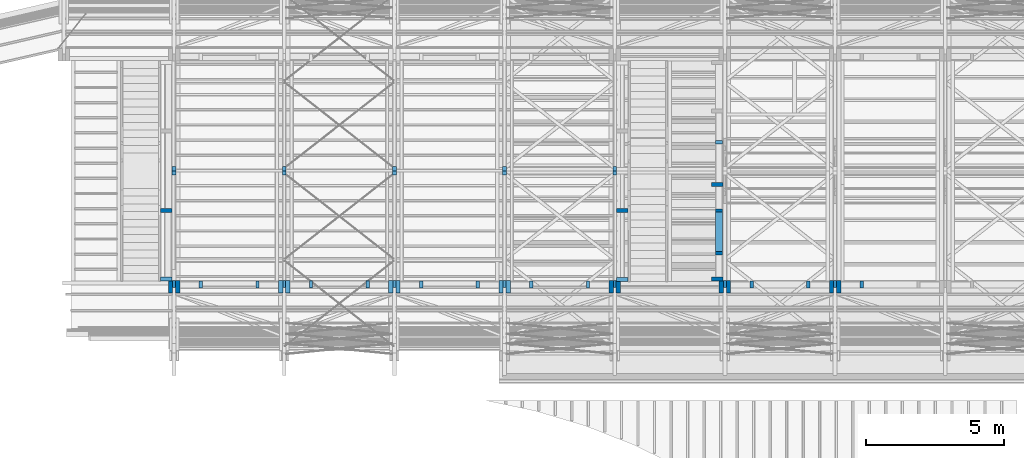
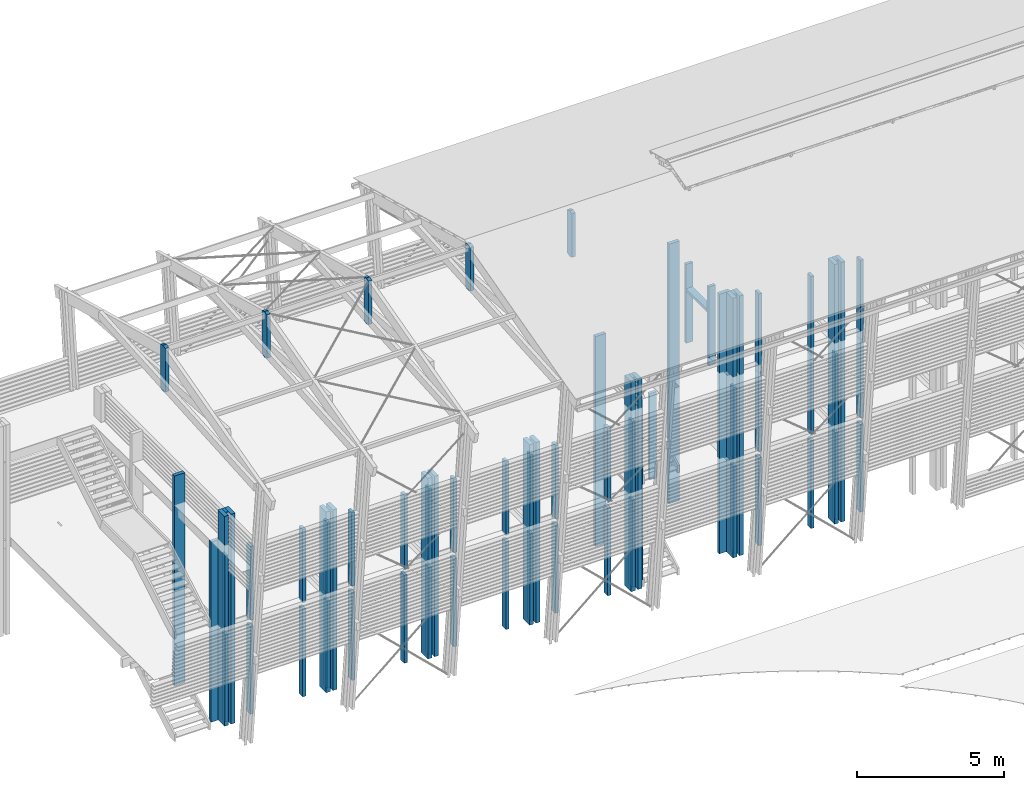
# One storey, part 1 of 48: 75 columns.
"""IFC2X3 building model written with IfcOpenShell, lengths in metres."""

from ifc_helpers import new_model, si_unit, direction, frame, origin_with_axes, place, context, subcontext, project, spatial, faceted_brep, material, element, save


model = new_model("IFC2X3")

# Units and contexts
model_context = context("Model", 3, precision=1e-06, world=origin_with_axes(), true_north=direction((0.0, 1.0, 0.0)))
body_context = subcontext(model_context, "Body", "Model", "MODEL_VIEW")
ifc_project = project(units=[si_unit("LENGTHUNIT", "METRE"), si_unit("AREAUNIT", "SQUARE_METRE"), si_unit("VOLUMEUNIT", "CUBIC_METRE"), si_unit("PLANEANGLEUNIT", "RADIAN")], contexts=[model_context])

# Site, building, storey
site_placement = place(None, origin_with_axes())
site = spatial("IfcSite", under=ifc_project, at=site_placement, CompositionType="ELEMENT")
building_placement = place(site_placement, origin_with_axes())
building = spatial("IfcBuilding", under=site, at=building_placement, Name="Building 1", CompositionType="ELEMENT")
storey_placement = place(building_placement, origin_with_axes())
storey = spatial("IfcBuildingStorey", under=building, at=storey_placement, Name="Storey 1", CompositionType="ELEMENT", Elevation=0.0)

# Columns
ifc_material = material(Name="GL28h")
column_1_placement = place(storey_placement, frame((36.5197437, -193.3396515, 4.215), z_axis=(0.0, 1.0, 0.0), x_axis=(0.0, 0.0, 1.0)))
element("IfcColumn", 1, at=column_1_placement, inside=storey, material=ifc_material, Name="poteau encadrement menuiserie", context=body_context, shape_type="Brep", body=[
    faceted_brep([(3.055, -0.06, 0.13), (3.055, 0.06, 0.13), (0.0, 0.06, 0.13), (0.0, -0.06, 0.13), (3.055, 0.06, -0.13), (0.0, 0.06, -0.13), (3.055, -0.06, -0.13), (0.0, -0.06, -0.13)], [[[0, 1, 2, 3]], [[1, 4, 5, 2]], [[4, 6, 7, 5]], [[7, 3, 2, 5]], [[6, 0, 3, 7]], [[0, 6, 4, 1]]]),
])
column_2_placement = place(storey_placement, frame((32.5197437, -193.3196515, 0.3), z_axis=(0.0, -1.0, 0.0), x_axis=(0.0, 0.0, 1.0)))
element("IfcColumn", 2, at=column_2_placement, inside=storey, material=ifc_material, Name="poteau encadrement menuiserie", context=body_context, shape_type="Brep", body=[
    faceted_brep([(0.0, 0.06, -0.13), (3.655, 0.06, -0.13), (3.655, -0.06, -0.13), (0.0, -0.06, -0.13), (0.0, 0.06, 0.13), (3.655, 0.06, 0.13), (0.0, -0.06, 0.13), (3.655, -0.06, 0.13)], [[[0, 1, 2, 3]], [[4, 5, 1, 0]], [[6, 7, 5, 4]], [[3, 2, 7, 6]], [[7, 2, 1, 5]], [[3, 6, 4, 0]]]),
])
column_3_placement = place(storey_placement, frame((45.4897437, -193.3196515, 0.3), z_axis=(0.0, -1.0, 0.0), x_axis=(0.0, 0.0, 1.0)))
element("IfcColumn", 3, at=column_3_placement, inside=storey, material=ifc_material, Name="Fourrure", context=body_context, shape_type="Brep", body=[
    faceted_brep([(3.629, -0.05, 0.13), (3.629, -0.05, -0.13), (3.629, 0.05, -0.13), (3.629, 0.05, 0.13), (0.0, 0.05, 0.13), (0.0, -0.05, 0.13), (0.0, -0.05, -0.13), (0.0, 0.05, -0.13)], [[[0, 1, 2, 3]], [[0, 3, 4, 5]], [[1, 0, 5, 6]], [[2, 1, 6, 7]], [[3, 2, 7, 4]], [[6, 5, 4, 7]]]),
])
column_4_placement = place(storey_placement, frame((45.2097437, -189.7096515, 0.3), z_axis=(-1.0, 0.0, 0.0), x_axis=(0.0, 0.0, 1.0)))
element("IfcColumn", 4, at=column_4_placement, inside=storey, material=ifc_material, Name="poteau", context=body_context, shape_type="Brep", body=[
    faceted_brep([(10.8, 0.07, 0.21), (10.8, 0.07, -0.21), (0.0, 0.07, -0.21), (0.0, 0.07, 0.21), (10.8, -0.07, -0.21), (0.0, -0.07, -0.21), (10.8, -0.07, 0.21), (0.0, -0.07, 0.21)], [[[0, 1, 2, 3]], [[1, 4, 5, 2]], [[4, 6, 7, 5]], [[6, 0, 3, 7]], [[0, 6, 4, 1]], [[5, 7, 3, 2]]]),
])
column_5_placement = place(storey_placement, frame((41.4897437, -193.3196515, 0.3), z_axis=(0.0, -1.0, 0.0), x_axis=(0.0, 0.0, 1.0)))
element("IfcColumn", 5, at=column_5_placement, inside=storey, material=ifc_material, Name="Fourrure", context=body_context, shape_type="Brep", body=[
    faceted_brep([(3.629, -0.05, 0.13), (3.629, -0.05, -0.13), (3.629, 0.05, -0.13), (3.629, 0.05, 0.13), (0.0, 0.05, 0.13), (0.0, -0.05, 0.13), (0.0, -0.05, -0.13), (0.0, 0.05, -0.13)], [[[0, 1, 2, 3]], [[0, 3, 4, 5]], [[1, 0, 5, 6]], [[2, 1, 6, 7]], [[3, 2, 7, 4]], [[6, 5, 4, 7]]]),
])
column_6_placement = place(storey_placement, frame((41.7697437, -190.6480698, 0.3), z_axis=(-1.0, 0.0, 0.0), x_axis=(0.0, 0.0, 1.0)))
element("IfcColumn", 6, at=column_6_placement, inside=storey, material=ifc_material, Name="poteau", context=body_context, shape_type="Brep", body=[
    faceted_brep([(8.73, 0.07, 0.21), (8.73, 0.07, -0.21), (0.0, 0.07, -0.21), (0.0, 0.07, 0.21), (8.73, -0.07, -0.21), (0.0, -0.07, -0.21), (8.73, -0.07, 0.21), (0.0, -0.07, 0.21)], [[[0, 1, 2, 3]], [[1, 4, 5, 2]], [[4, 6, 7, 5]], [[6, 0, 3, 7]], [[0, 6, 4, 1]], [[5, 7, 3, 2]]]),
])
column_7_placement = place(storey_placement, frame((40.5197437, -193.3396515, 4.215), z_axis=(0.0, 1.0, 0.0), x_axis=(0.0, 0.0, 1.0)))
element("IfcColumn", 7, at=column_7_placement, inside=storey, material=ifc_material, Name="poteau encadrement menuiserie", context=body_context, shape_type="Brep", body=[
    faceted_brep([(3.055, -0.06, 0.13), (3.055, 0.06, 0.13), (0.0, 0.06, 0.13), (0.0, -0.06, 0.13), (3.055, 0.06, -0.13), (0.0, 0.06, -0.13), (3.055, -0.06, -0.13), (0.0, -0.06, -0.13)], [[[0, 1, 2, 3]], [[1, 4, 5, 2]], [[4, 6, 7, 5]], [[7, 3, 2, 5]], [[6, 0, 3, 7]], [[0, 6, 4, 1]]]),
])
column_8_placement = place(storey_placement, frame((45.2697437, -188.1664884, 0.3), z_axis=(-1.0, 0.0, 0.0), x_axis=(0.0, 0.0, 1.0)))
element("IfcColumn", 8, at=column_8_placement, inside=storey, material=ifc_material, Name="poteau encadrement menuiserie", context=body_context, shape_type="Brep", body=[
    faceted_brep([(3.595, 0.06, -0.13), (3.595, 0.06, 0.13), (3.595, -0.06, 0.13), (3.595, -0.06, -0.13), (0.0, 0.06, 0.13), (0.0, 0.06, -0.13), (0.0, -0.06, -0.13), (0.0, -0.06, 0.13)], [[[0, 1, 2, 3]], [[4, 5, 6, 7]], [[3, 6, 5, 0]], [[2, 7, 6, 3]], [[1, 4, 7, 2]], [[0, 5, 4, 1]]]),
])
column_9_placement = place(storey_placement, frame((45.4897437, -193.3196515, 7.529), z_axis=(0.0, -1.0, 0.0), x_axis=(0.0, 0.0, 1.0)))
element("IfcColumn", 9, at=column_9_placement, inside=storey, material=ifc_material, Name="Fourrure", context=body_context, shape_type="Brep", body=[
    faceted_brep([(0.0, 0.05, 0.13), (0.0, -0.05, 0.13), (3.571, -0.05, 0.13), (3.571, 0.05, 0.13), (0.0, 0.05, -0.13), (3.571, 0.05, -0.13), (0.0, -0.05, -0.13), (3.571, -0.05, -0.13)], [[[0, 1, 2, 3]], [[4, 0, 3, 5]], [[6, 4, 5, 7]], [[1, 6, 7, 2]], [[4, 6, 1, 0]], [[2, 7, 5, 3]]]),
])
column_10_placement = place(storey_placement, frame((25.4897437, -193.3196515, 0.3), z_axis=(0.0, -1.0, 0.0), x_axis=(0.0, 0.0, 1.0)))
element("IfcColumn", 10, at=column_10_placement, inside=storey, material=ifc_material, Name="Fourrure", context=body_context, shape_type="Brep", body=[
    faceted_brep([(3.629, -0.05, 0.13), (3.629, -0.05, -0.13), (3.629, 0.05, -0.13), (3.629, 0.05, 0.13), (0.0, 0.05, 0.13), (0.0, -0.05, 0.13), (0.0, -0.05, -0.13), (0.0, 0.05, -0.13)], [[[0, 1, 2, 3]], [[0, 3, 4, 5]], [[1, 0, 5, 6]], [[2, 1, 6, 7]], [[3, 2, 7, 4]], [[6, 5, 4, 7]]]),
])
column_11_placement = place(storey_placement, frame((45.3597437, -193.4196515, 0.3), z_axis=(0.0, 1.0, 0.0), x_axis=(0.0, 0.0, 1.0)))
element("IfcColumn", 11, at=column_11_placement, inside=storey, material=ifc_material, Name="Poteau", context=body_context, shape_type="Brep", body=[
    faceted_brep([(10.8, 0.08, 0.23), (0.0, 0.08, 0.23), (0.0, -0.08, 0.23), (10.8, -0.08, 0.23), (10.8, 0.08, -0.23), (0.0, 0.08, -0.23), (10.8, -0.08, -0.23), (0.0, -0.08, -0.23)], [[[0, 1, 2, 3]], [[0, 4, 5, 1]], [[6, 7, 5, 4]], [[2, 7, 6, 3]], [[1, 5, 7, 2]], [[3, 6, 4, 0]]]),
])
column_12_placement = place(storey_placement, frame((30.4597437, -193.3396515, 0.3), z_axis=(0.0, -1.0, 0.0), x_axis=(0.0, 0.0, 1.0)))
element("IfcColumn", 12, at=column_12_placement, inside=storey, material=ifc_material, Name="poteau encadrement menuiserie", context=body_context, shape_type="Brep", body=[
    faceted_brep([(0.0, 0.06, -0.13), (3.655, 0.06, -0.13), (3.655, -0.06, -0.13), (0.0, -0.06, -0.13), (0.0, 0.06, 0.13), (3.655, 0.06, 0.13), (0.0, -0.06, 0.13), (3.655, -0.06, 0.13)], [[[0, 1, 2, 3]], [[4, 5, 1, 0]], [[6, 7, 5, 4]], [[3, 2, 7, 6]], [[7, 2, 1, 5]], [[3, 6, 4, 0]]]),
])
column_13_placement = place(storey_placement, frame((41.3597437, -193.4196515, 0.3), z_axis=(0.0, 1.0, 0.0), x_axis=(0.0, 0.0, 1.0)))
element("IfcColumn", 13, at=column_13_placement, inside=storey, material=ifc_material, Name="Poteau", context=body_context, shape_type="Brep", body=[
    faceted_brep([(8.73, 0.08, 0.23), (8.73, 0.08, -0.23), (0.0, 0.08, -0.23), (0.0, 0.08, 0.23), (8.73, -0.08, -0.23), (0.0, -0.08, -0.23), (8.73, -0.08, 0.23), (0.0, -0.08, 0.23)], [[[0, 1, 2, 3]], [[1, 4, 5, 2]], [[4, 6, 7, 5]], [[6, 0, 3, 7]], [[0, 6, 4, 1]], [[5, 7, 3, 2]]]),
])
column_14_placement = place(storey_placement, frame((25.2097437, -190.6480698, 0.3), z_axis=(-1.0, 0.0, 0.0), x_axis=(0.0, 0.0, 1.0)))
element("IfcColumn", 14, at=column_14_placement, inside=storey, material=ifc_material, Name="poteau", context=body_context, shape_type="Brep", body=[
    faceted_brep([(8.73, 0.07, 0.21), (8.73, 0.07, -0.21), (0.0, 0.07, -0.21), (0.0, 0.07, 0.21), (8.73, -0.07, -0.21), (0.0, -0.07, -0.21), (8.73, -0.07, 0.21), (0.0, -0.07, 0.21)], [[[0, 1, 2, 3]], [[1, 4, 5, 2]], [[4, 6, 7, 5]], [[6, 0, 3, 7]], [[0, 6, 4, 1]], [[5, 7, 3, 2]]]),
])
for number, where, z_axis, x_axis, name in (
    (15, (41.7697437, -193.1596511, 0.3), (-1.0, 0.0, 0.0), (0.0, 0.0, 1.0), "poteau"),
    (16, (25.2097437, -193.1396515, 0.3), (-1.0, 0.0, 0.0), (0.0, 0.0, 1.0), "poteau"),
):
    element("IfcColumn", number, at=place(storey_placement, frame(where, z_axis=z_axis, x_axis=x_axis)), inside=storey, material=ifc_material, Name=name, context=body_context, shape_type="Brep", body=[
        faceted_brep([(7.49, -0.07, 0.21), (7.49, 0.07, 0.21), (0.0, 0.07, 0.21), (0.0, -0.07, 0.21), (7.49, 0.07, -0.21), (0.0, 0.07, -0.21), (7.49, -0.07, -0.21), (0.0, -0.07, -0.21)], [[[0, 1, 2, 3]], [[1, 4, 5, 2]], [[4, 6, 7, 5]], [[6, 0, 3, 7]], [[0, 6, 4, 1]], [[3, 2, 5, 7]]]),
    ])
column_15_placement = place(storey_placement, frame((50.4597437, -193.3396515, 4.215), z_axis=(0.0, 1.0, 0.0), x_axis=(0.0, 0.0, 1.0)))
element("IfcColumn", 17, at=column_15_placement, inside=storey, material=ifc_material, Name="poteau encadrement menuiserie", context=body_context, shape_type="Brep", body=[
    faceted_brep([(3.3, 0.06, 0.13), (3.3, 0.06, -0.13), (0.0, 0.06, -0.13), (0.0, 0.06, 0.13), (3.3, -0.06, -0.13), (0.0, -0.06, -0.13), (3.3, -0.06, 0.13), (0.0, -0.06, 0.13)], [[[0, 1, 2, 3]], [[1, 4, 5, 2]], [[4, 6, 7, 5]], [[5, 7, 3, 2]], [[6, 0, 3, 7]], [[0, 6, 4, 1]]]),
])
column_16_placement = place(storey_placement, frame((41.4897437, -193.3196515, 7.529), z_axis=(0.0, -1.0, 0.0), x_axis=(0.0, 0.0, 1.0)))
element("IfcColumn", 18, at=column_16_placement, inside=storey, material=ifc_material, Name="Fourrure", context=body_context, shape_type="Brep", body=[
    faceted_brep([(1.501, -0.05, 0.13), (1.501, 0.05, 0.13), (0.0, 0.05, 0.13), (0.0, -0.05, 0.13), (1.501, 0.05, -0.13), (0.0, 0.05, -0.13), (1.501, -0.05, -0.13), (0.0, -0.05, -0.13)], [[[0, 1, 2, 3]], [[1, 4, 5, 2]], [[4, 6, 7, 5]], [[5, 7, 3, 2]], [[6, 0, 3, 7]], [[0, 6, 4, 1]]]),
])
column_17_placement = place(storey_placement, frame((41.6197437, -193.4196515, 0.3), z_axis=(0.0, 1.0, 0.0), x_axis=(0.0, 0.0, 1.0)))
element("IfcColumn", 19, at=column_17_placement, inside=storey, material=ifc_material, Name="Poteau", context=body_context, shape_type="Brep", body=[
    faceted_brep([(8.73, 0.08, 0.23), (8.73, 0.08, -0.23), (0.0, 0.08, -0.23), (0.0, 0.08, 0.23), (8.73, -0.08, -0.23), (0.0, -0.08, -0.23), (8.73, -0.08, 0.23), (0.0, -0.08, 0.23)], [[[0, 1, 2, 3]], [[1, 4, 5, 2]], [[4, 6, 7, 5]], [[6, 0, 3, 7]], [[0, 6, 4, 1]], [[5, 7, 3, 2]]]),
])
column_18_placement = place(storey_placement, frame((41.4897437, -189.2080698, 11.5112653), z_axis=(0.0, -1.0, 0.0), x_axis=(0.0, 0.0, 1.0)))
element("IfcColumn", 20, at=column_18_placement, inside=storey, material=ifc_material, Name="poinçon", context=body_context, shape_type="Brep", body=[
    faceted_brep([(0.0428719, 0.07, 0.16), (0.0428719, -0.07, 0.16), (1.8571281, -0.07, 0.16), (1.8571281, 0.07, 0.16), (0.0, -0.07, 0.0), (0.0, 0.07, 0.0), (1.9, -0.07, 0.0), (1.9, 0.07, 0.0), (0.0428719, 0.07, -0.16), (0.0428719, -0.07, -0.16), (1.8571281, 0.07, -0.16), (1.8571281, -0.07, -0.16)], [[[0, 1, 2, 3]], [[4, 1, 0, 5]], [[6, 7, 3, 2]], [[8, 9, 4, 5]], [[8, 5, 0, 3, 7, 10]], [[9, 8, 10, 11]], [[11, 10, 7, 6]], [[4, 9, 11, 6, 2, 1]]]),
])
column_19_placement = place(storey_placement, frame((41.4897437, -193.3196515, 4.249), z_axis=(0.0, -1.0, 0.0), x_axis=(0.0, 0.0, 1.0)))
element("IfcColumn", 21, at=column_19_placement, inside=storey, material=ifc_material, Name="Fourrure", context=body_context, shape_type="Brep", body=[
    faceted_brep([(0.0, 0.05, -0.13), (0.0, -0.05, -0.13), (0.0, -0.05, 0.13), (0.0, 0.05, 0.13), (2.96, 0.05, 0.13), (2.96, 0.05, -0.13), (2.96, -0.05, -0.13), (2.96, -0.05, 0.13)], [[[0, 1, 2, 3]], [[0, 3, 4, 5]], [[1, 0, 5, 6]], [[3, 2, 7, 4]], [[2, 1, 6, 7]], [[7, 6, 5, 4]]]),
])
for number, where, z_axis, x_axis, name in (
    (22, (33.6197437, -193.4196515, 0.3), (0.0, 1.0, 0.0), (0.0, 0.0, 1.0), "Poteau"),
    (23, (37.6197437, -193.4196515, 0.3), (0.0, 1.0, 0.0), (0.0, 0.0, 1.0), "Poteau"),
    (24, (29.3597437, -193.4196515, 0.3), (0.0, 1.0, 0.0), (0.0, 0.0, 1.0), "Poteau"),
):
    element("IfcColumn", number, at=place(storey_placement, frame(where, z_axis=z_axis, x_axis=x_axis)), inside=storey, material=ifc_material, Name=name, context=body_context, shape_type="Brep", body=[
        faceted_brep([(7.509, 0.08, 0.23), (7.509, 0.08, -0.23), (0.0, 0.08, -0.23), (0.0, 0.08, 0.23), (7.509, -0.08, -0.23), (0.0, -0.08, -0.23), (7.509, -0.08, 0.23), (0.0, -0.08, 0.23)], [[[0, 1, 2, 3]], [[1, 4, 5, 2]], [[4, 6, 7, 5]], [[6, 0, 3, 7]], [[0, 6, 4, 1]], [[5, 7, 3, 2]]]),
    ])
column_20_placement = place(storey_placement, frame((37.4897437, -193.3196515, 4.249), z_axis=(0.0, -1.0, 0.0), x_axis=(0.0, 0.0, 1.0)))
element("IfcColumn", 25, at=column_20_placement, inside=storey, material=ifc_material, Name="Fourrure", context=body_context, shape_type="Brep", body=[
    faceted_brep([(0.0, 0.05, -0.13), (0.0, -0.05, -0.13), (0.0, -0.05, 0.13), (0.0, 0.05, 0.13), (2.96, 0.05, 0.13), (2.96, 0.05, -0.13), (2.96, -0.05, -0.13), (2.96, -0.05, 0.13)], [[[0, 1, 2, 3]], [[0, 3, 4, 5]], [[1, 0, 5, 6]], [[3, 2, 7, 4]], [[2, 1, 6, 7]], [[7, 6, 5, 4]]]),
])
column_21_placement = place(storey_placement, frame((37.4897437, -189.2080698, 11.5112653), z_axis=(0.0, -1.0, 0.0), x_axis=(0.0, 0.0, 1.0)))
element("IfcColumn", 26, at=column_21_placement, inside=storey, material=ifc_material, Name="poinçon", context=body_context, shape_type="Brep", body=[
    faceted_brep([(0.0428719, 0.07, 0.16), (0.0428719, -0.07, 0.16), (1.8571281, -0.07, 0.16), (1.8571281, 0.07, 0.16), (0.0, -0.07, 0.0), (0.0, 0.07, 0.0), (1.9, -0.07, 0.0), (1.9, 0.07, 0.0), (0.0428719, 0.07, -0.16), (0.0428719, -0.07, -0.16), (1.8571281, 0.07, -0.16), (1.8571281, -0.07, -0.16)], [[[0, 1, 2, 3]], [[4, 1, 0, 5]], [[6, 7, 3, 2]], [[8, 9, 4, 5]], [[8, 5, 0, 3, 7, 10]], [[9, 8, 10, 11]], [[11, 10, 7, 6]], [[4, 9, 11, 6, 2, 1]]]),
])
column_22_placement = place(storey_placement, frame((37.4897437, -193.3196515, 0.3), z_axis=(0.0, -1.0, 0.0), x_axis=(0.0, 0.0, 1.0)))
element("IfcColumn", 27, at=column_22_placement, inside=storey, material=ifc_material, Name="Fourrure", context=body_context, shape_type="Brep", body=[
    faceted_brep([(3.629, -0.05, 0.13), (3.629, -0.05, -0.13), (3.629, 0.05, -0.13), (3.629, 0.05, 0.13), (0.0, 0.05, 0.13), (0.0, -0.05, 0.13), (0.0, -0.05, -0.13), (0.0, 0.05, -0.13)], [[[0, 1, 2, 3]], [[0, 3, 4, 5]], [[1, 0, 5, 6]], [[2, 1, 6, 7]], [[3, 2, 7, 4]], [[6, 5, 4, 7]]]),
])
for number, where, z_axis, x_axis in (
    (28, (29.4897437, -189.2080698, 11.5112653), (0.0, -1.0, 0.0), (0.0, 0.0, 1.0)),
    (29, (33.4897437, -189.2080698, 11.5112653), (0.0, -1.0, 0.0), (0.0, 0.0, 1.0)),
):
    element("IfcColumn", number, at=place(storey_placement, frame(where, z_axis=z_axis, x_axis=x_axis)), inside=storey, material=ifc_material, Name="poinçon", context=body_context, shape_type="Brep", body=[
        faceted_brep([(0.0428719, 0.07, 0.16), (0.0428719, -0.07, 0.16), (1.8571281, -0.07, 0.16), (1.8571281, 0.07, 0.16), (0.0, -0.07, 0.0), (0.0, 0.07, 0.0), (1.9, -0.07, 0.0), (1.9, 0.07, 0.0), (0.0428719, 0.07, -0.16), (0.0428719, -0.07, -0.16), (1.8571281, 0.07, -0.16), (1.8571281, -0.07, -0.16)], [[[0, 1, 2, 3]], [[4, 1, 0, 5]], [[6, 7, 3, 2]], [[8, 9, 4, 5]], [[8, 5, 0, 3, 7, 10]], [[9, 8, 10, 11]], [[11, 10, 7, 6]], [[4, 9, 11, 6, 2, 1]]]),
    ])
for number, where, z_axis, x_axis, name in (
    (30, (37.3597437, -193.4196515, 0.3), (0.0, 1.0, 0.0), (0.0, 0.0, 1.0), "Poteau"),
    (31, (33.3597437, -193.4196515, 0.3), (0.0, 1.0, 0.0), (0.0, 0.0, 1.0), "Poteau"),
    (32, (29.6197437, -193.4196515, 0.3), (0.0, 1.0, 0.0), (0.0, 0.0, 1.0), "Poteau"),
):
    element("IfcColumn", number, at=place(storey_placement, frame(where, z_axis=z_axis, x_axis=x_axis)), inside=storey, material=ifc_material, Name=name, context=body_context, shape_type="Brep", body=[
        faceted_brep([(7.509, 0.08, 0.23), (7.509, 0.08, -0.23), (0.0, 0.08, -0.23), (0.0, 0.08, 0.23), (7.509, -0.08, -0.23), (0.0, -0.08, -0.23), (7.509, -0.08, 0.23), (0.0, -0.08, 0.23)], [[[0, 1, 2, 3]], [[1, 4, 5, 2]], [[4, 6, 7, 5]], [[6, 0, 3, 7]], [[0, 6, 4, 1]], [[5, 7, 3, 2]]]),
    ])
column_23_placement = place(storey_placement, frame((45.6197437, -193.4196515, 0.3), z_axis=(0.0, 1.0, 0.0), x_axis=(0.0, 0.0, 1.0)))
element("IfcColumn", 33, at=column_23_placement, inside=storey, material=ifc_material, Name="Poteau", context=body_context, shape_type="Brep", body=[
    faceted_brep([(10.8, 0.08, 0.23), (0.0, 0.08, 0.23), (0.0, -0.08, 0.23), (10.8, -0.08, 0.23), (10.8, 0.08, -0.23), (0.0, 0.08, -0.23), (10.8, -0.08, -0.23), (0.0, -0.08, -0.23)], [[[0, 1, 2, 3]], [[0, 4, 5, 1]], [[6, 7, 5, 4]], [[2, 7, 6, 3]], [[1, 5, 7, 2]], [[3, 6, 4, 0]]]),
])
column_24_placement = place(storey_placement, frame((29.4897437, -193.3196515, 0.3), z_axis=(0.0, -1.0, 0.0), x_axis=(0.0, 0.0, 1.0)))
element("IfcColumn", 34, at=column_24_placement, inside=storey, material=ifc_material, Name="Fourrure", context=body_context, shape_type="Brep", body=[
    faceted_brep([(3.629, -0.05, 0.13), (3.629, -0.05, -0.13), (3.629, 0.05, -0.13), (3.629, 0.05, 0.13), (0.0, 0.05, 0.13), (0.0, -0.05, 0.13), (0.0, -0.05, -0.13), (0.0, 0.05, -0.13)], [[[0, 1, 2, 3]], [[0, 3, 4, 5]], [[1, 0, 5, 6]], [[2, 1, 6, 7]], [[3, 2, 7, 4]], [[6, 5, 4, 7]]]),
])
column_25_placement = place(storey_placement, frame((25.6197437, -193.4196515, 0.3), z_axis=(0.0, 1.0, 0.0), x_axis=(0.0, 0.0, 1.0)))
element("IfcColumn", 35, at=column_25_placement, inside=storey, material=ifc_material, Name="Poteau", context=body_context, shape_type="Brep", body=[
    faceted_brep([(8.73, 0.08, 0.23), (8.73, 0.08, -0.23), (0.0, 0.08, -0.23), (0.0, 0.08, 0.23), (8.73, -0.08, -0.23), (0.0, -0.08, -0.23), (8.73, -0.08, 0.23), (0.0, -0.08, 0.23)], [[[0, 1, 2, 3]], [[1, 4, 5, 2]], [[4, 6, 7, 5]], [[6, 0, 3, 7]], [[0, 6, 4, 1]], [[5, 7, 3, 2]]]),
])
for number, where, z_axis, x_axis in (
    (36, (45.4897437, -193.3196515, 4.249), (0.0, -1.0, 0.0), (0.0, 0.0, 1.0)),
    (37, (33.4897437, -193.3196515, 4.249), (0.0, -1.0, 0.0), (0.0, 0.0, 1.0)),
    (38, (29.4897437, -193.3196515, 4.249), (0.0, -1.0, 0.0), (0.0, 0.0, 1.0)),
):
    element("IfcColumn", number, at=place(storey_placement, frame(where, z_axis=z_axis, x_axis=x_axis)), inside=storey, material=ifc_material, Name="Fourrure", context=body_context, shape_type="Brep", body=[
        faceted_brep([(0.0, 0.05, -0.13), (0.0, -0.05, -0.13), (0.0, -0.05, 0.13), (0.0, 0.05, 0.13), (2.96, 0.05, 0.13), (2.96, 0.05, -0.13), (2.96, -0.05, -0.13), (2.96, -0.05, 0.13)], [[[0, 1, 2, 3]], [[0, 3, 4, 5]], [[1, 0, 5, 6]], [[3, 2, 7, 4]], [[2, 1, 6, 7]], [[7, 6, 5, 4]]]),
    ])
column_26_placement = place(storey_placement, frame((33.4897437, -193.3196515, 0.3), z_axis=(0.0, -1.0, 0.0), x_axis=(0.0, 0.0, 1.0)))
element("IfcColumn", 39, at=column_26_placement, inside=storey, material=ifc_material, Name="Fourrure", context=body_context, shape_type="Brep", body=[
    faceted_brep([(3.629, -0.05, 0.13), (3.629, -0.05, -0.13), (3.629, 0.05, -0.13), (3.629, 0.05, 0.13), (0.0, 0.05, 0.13), (0.0, -0.05, 0.13), (0.0, -0.05, -0.13), (0.0, 0.05, -0.13)], [[[0, 1, 2, 3]], [[0, 3, 4, 5]], [[1, 0, 5, 6]], [[2, 1, 6, 7]], [[3, 2, 7, 4]], [[6, 5, 4, 7]]]),
])
column_27_placement = place(storey_placement, frame((25.3597437, -193.4196515, 0.3), z_axis=(0.0, 1.0, 0.0), x_axis=(0.0, 0.0, 1.0)))
element("IfcColumn", 40, at=column_27_placement, inside=storey, material=ifc_material, Name="Poteau", context=body_context, shape_type="Brep", body=[
    faceted_brep([(8.73, 0.08, 0.23), (8.73, 0.08, -0.23), (0.0, 0.08, -0.23), (0.0, 0.08, 0.23), (8.73, -0.08, -0.23), (0.0, -0.08, -0.23), (8.73, -0.08, 0.23), (0.0, -0.08, 0.23)], [[[0, 1, 2, 3]], [[1, 4, 5, 2]], [[4, 6, 7, 5]], [[6, 0, 3, 7]], [[0, 6, 4, 1]], [[5, 7, 3, 2]]]),
])
column_28_placement = place(storey_placement, frame((25.4897437, -193.3196515, 7.529), z_axis=(0.0, -1.0, 0.0), x_axis=(0.0, 0.0, 1.0)))
element("IfcColumn", 41, at=column_28_placement, inside=storey, material=ifc_material, Name="Fourrure", context=body_context, shape_type="Brep", body=[
    faceted_brep([(1.501, -0.05, 0.13), (1.501, 0.05, 0.13), (0.0, 0.05, 0.13), (0.0, -0.05, 0.13), (1.501, 0.05, -0.13), (0.0, 0.05, -0.13), (1.501, -0.05, -0.13), (0.0, -0.05, -0.13)], [[[0, 1, 2, 3]], [[1, 4, 5, 2]], [[4, 6, 7, 5]], [[5, 7, 3, 2]], [[6, 0, 3, 7]], [[0, 6, 4, 1]]]),
])
column_29_placement = place(storey_placement, frame((25.4897437, -189.2080698, 11.5112653), z_axis=(0.0, -1.0, 0.0), x_axis=(0.0, 0.0, 1.0)))
element("IfcColumn", 42, at=column_29_placement, inside=storey, material=ifc_material, Name="poinçon", context=body_context, shape_type="Brep", body=[
    faceted_brep([(0.0428719, 0.07, 0.16), (0.0428719, -0.07, 0.16), (1.8571281, -0.07, 0.16), (1.8571281, 0.07, 0.16), (0.0, -0.07, 0.0), (0.0, 0.07, 0.0), (1.9, -0.07, 0.0), (1.9, 0.07, 0.0), (0.0428719, 0.07, -0.16), (0.0428719, -0.07, -0.16), (1.8571281, 0.07, -0.16), (1.8571281, -0.07, -0.16)], [[[0, 1, 2, 3]], [[4, 1, 0, 5]], [[6, 7, 3, 2]], [[8, 9, 4, 5]], [[8, 5, 0, 3, 7, 10]], [[9, 8, 10, 11]], [[11, 10, 7, 6]], [[4, 9, 11, 6, 2, 1]]]),
])
column_30_placement = place(storey_placement, frame((46.4597437, -193.3396515, 0.3), z_axis=(0.0, -1.0, 0.0), x_axis=(0.0, 0.0, 1.0)))
element("IfcColumn", 43, at=column_30_placement, inside=storey, material=ifc_material, Name="poteau encadrement menuiserie", context=body_context, shape_type="Brep", body=[
    faceted_brep([(0.0, 0.06, -0.13), (3.655, 0.06, -0.13), (3.655, -0.06, -0.13), (0.0, -0.06, -0.13), (0.0, 0.06, 0.13), (3.655, 0.06, 0.13), (0.0, -0.06, 0.13), (3.655, -0.06, 0.13)], [[[0, 1, 2, 3]], [[4, 5, 1, 0]], [[6, 7, 5, 4]], [[3, 2, 7, 6]], [[7, 2, 1, 5]], [[3, 6, 4, 0]]]),
])
column_31_placement = place(storey_placement, frame((49.4897437, -193.3196515, 4.249), z_axis=(0.0, -1.0, 0.0), x_axis=(0.0, 0.0, 1.0)))
element("IfcColumn", 44, at=column_31_placement, inside=storey, material=ifc_material, Name="Fourrure", context=body_context, shape_type="Brep", body=[
    faceted_brep([(0.0, 0.05, -0.13), (0.0, -0.05, -0.13), (0.0, -0.05, 0.13), (0.0, 0.05, 0.13), (2.96, 0.05, 0.13), (2.96, 0.05, -0.13), (2.96, -0.05, -0.13), (2.96, -0.05, 0.13)], [[[0, 1, 2, 3]], [[0, 3, 4, 5]], [[1, 0, 5, 6]], [[3, 2, 7, 4]], [[2, 1, 6, 7]], [[7, 6, 5, 4]]]),
])
column_32_placement = place(storey_placement, frame((49.4897437, -193.3196515, 0.3), z_axis=(0.0, -1.0, 0.0), x_axis=(0.0, 0.0, 1.0)))
element("IfcColumn", 45, at=column_32_placement, inside=storey, material=ifc_material, Name="Fourrure", context=body_context, shape_type="Brep", body=[
    faceted_brep([(3.629, -0.05, 0.13), (3.629, -0.05, -0.13), (3.629, 0.05, -0.13), (3.629, 0.05, 0.13), (0.0, 0.05, 0.13), (0.0, -0.05, 0.13), (0.0, -0.05, -0.13), (0.0, 0.05, -0.13)], [[[0, 1, 2, 3]], [[0, 3, 4, 5]], [[1, 0, 5, 6]], [[2, 1, 6, 7]], [[3, 2, 7, 4]], [[6, 5, 4, 7]]]),
])
column_33_placement = place(storey_placement, frame((49.4897437, -193.3196515, 7.529), z_axis=(0.0, -1.0, 0.0), x_axis=(0.0, 0.0, 1.0)))
element("IfcColumn", 46, at=column_33_placement, inside=storey, material=ifc_material, Name="Fourrure", context=body_context, shape_type="Brep", body=[
    faceted_brep([(0.0, 0.05, 0.13), (0.0, -0.05, 0.13), (3.571, -0.05, 0.13), (3.571, 0.05, 0.13), (0.0, 0.05, -0.13), (3.571, 0.05, -0.13), (0.0, -0.05, -0.13), (3.571, -0.05, -0.13)], [[[0, 1, 2, 3]], [[4, 0, 3, 5]], [[6, 4, 5, 7]], [[1, 6, 7, 2]], [[4, 6, 1, 0]], [[2, 7, 5, 3]]]),
])
for number, where, z_axis, x_axis, name in (
    (47, (49.3597437, -193.4196515, 0.3), (0.0, 1.0, 0.0), (0.0, 0.0, 1.0), "Poteau"),
    (48, (49.6197437, -193.4196515, 0.3), (0.0, 1.0, 0.0), (0.0, 0.0, 1.0), "Poteau"),
):
    element("IfcColumn", number, at=place(storey_placement, frame(where, z_axis=z_axis, x_axis=x_axis)), inside=storey, material=ifc_material, Name=name, context=body_context, shape_type="Brep", body=[
        faceted_brep([(10.8, 0.08, 0.23), (0.0, 0.08, 0.23), (0.0, -0.08, 0.23), (10.8, -0.08, 0.23), (10.8, 0.08, -0.23), (0.0, 0.08, -0.23), (10.8, -0.08, -0.23), (0.0, -0.08, -0.23)], [[[0, 1, 2, 3]], [[0, 4, 5, 1]], [[6, 7, 5, 4]], [[2, 7, 6, 3]], [[1, 5, 7, 2]], [[3, 6, 4, 0]]]),
    ])
column_34_placement = place(storey_placement, frame((25.4897437, -193.3196515, 4.249), z_axis=(0.0, -1.0, 0.0), x_axis=(0.0, 0.0, 1.0)))
element("IfcColumn", 49, at=column_34_placement, inside=storey, material=ifc_material, Name="Fourrure", context=body_context, shape_type="Brep", body=[
    faceted_brep([(0.0, 0.05, -0.13), (0.0, -0.05, -0.13), (0.0, -0.05, 0.13), (0.0, 0.05, 0.13), (2.96, 0.05, 0.13), (2.96, 0.05, -0.13), (2.96, -0.05, -0.13), (2.96, -0.05, 0.13)], [[[0, 1, 2, 3]], [[0, 3, 4, 5]], [[1, 0, 5, 6]], [[3, 2, 7, 4]], [[2, 1, 6, 7]], [[7, 6, 5, 4]]]),
])
column_35_placement = place(storey_placement, frame((50.4597437, -193.3396515, 7.495), z_axis=(0.0, -1.0, 0.0), x_axis=(0.0, 0.0, 1.0)))
element("IfcColumn", 50, at=column_35_placement, inside=storey, material=ifc_material, Name="poteau encadrement menuiserie", context=body_context, shape_type="Brep", body=[
    faceted_brep([(0.0, -0.06, 0.13), (3.285, -0.06, 0.13), (3.285, 0.06, 0.13), (0.0, 0.06, 0.13), (3.285, 0.06, -0.13), (0.0, 0.06, -0.13), (3.285, -0.06, -0.13), (0.0, -0.06, -0.13)], [[[0, 1, 2, 3]], [[3, 2, 4, 5]], [[5, 4, 6, 7]], [[7, 0, 3, 5]], [[7, 6, 1, 0]], [[1, 6, 4, 2]]]),
])
for number, where, z_axis, x_axis, name in (
    (51, (32.5197437, -193.3396515, 4.215), (0.0, 1.0, 0.0), (0.0, 0.0, 1.0), "poteau encadrement menuiserie"),
    (52, (30.4597437, -193.3396515, 4.215), (0.0, 1.0, 0.0), (0.0, 0.0, 1.0), "poteau encadrement menuiserie"),
):
    element("IfcColumn", number, at=place(storey_placement, frame(where, z_axis=z_axis, x_axis=x_axis)), inside=storey, material=ifc_material, Name=name, context=body_context, shape_type="Brep", body=[
        faceted_brep([(3.055, -0.06, 0.13), (3.055, 0.06, 0.13), (0.0, 0.06, 0.13), (0.0, -0.06, 0.13), (3.055, 0.06, -0.13), (0.0, 0.06, -0.13), (3.055, -0.06, -0.13), (0.0, -0.06, -0.13)], [[[0, 1, 2, 3]], [[1, 4, 5, 2]], [[4, 6, 7, 5]], [[7, 3, 2, 5]], [[6, 0, 3, 7]], [[0, 6, 4, 1]]]),
    ])
for number, where, z_axis, x_axis, name in (
    (53, (48.5197437, -193.3396515, 0.3), (0.0, -1.0, 0.0), (0.0, 0.0, 1.0), "poteau encadrement menuiserie"),
    (54, (50.4597437, -193.3396515, 0.3), (0.0, -1.0, 0.0), (0.0, 0.0, 1.0), "poteau encadrement menuiserie"),
    (55, (40.5197437, -193.3396515, 0.3), (0.0, -1.0, 0.0), (0.0, 0.0, 1.0), "poteau encadrement menuiserie"),
    (56, (30.4597437, -193.3196515, 0.3), (0.0, -1.0, 0.0), (0.0, 0.0, 1.0), "poteau encadrement menuiserie"),
    (57, (26.4597437, -193.3396515, 0.3), (0.0, -1.0, 0.0), (0.0, 0.0, 1.0), "poteau encadrement menuiserie"),
    (58, (38.4597437, -193.3396515, 0.3), (0.0, -1.0, 0.0), (0.0, 0.0, 1.0), "poteau encadrement menuiserie"),
    (59, (36.5197437, -193.3396515, 0.3), (0.0, -1.0, 0.0), (0.0, 0.0, 1.0), "poteau encadrement menuiserie"),
):
    element("IfcColumn", number, at=place(storey_placement, frame(where, z_axis=z_axis, x_axis=x_axis)), inside=storey, material=ifc_material, Name=name, context=body_context, shape_type="Brep", body=[
        faceted_brep([(0.0, 0.06, -0.13), (3.655, 0.06, -0.13), (3.655, -0.06, -0.13), (0.0, -0.06, -0.13), (0.0, 0.06, 0.13), (3.655, 0.06, 0.13), (0.0, -0.06, 0.13), (3.655, -0.06, 0.13)], [[[0, 1, 2, 3]], [[4, 5, 1, 0]], [[6, 7, 5, 4]], [[3, 2, 7, 6]], [[7, 2, 1, 5]], [[3, 6, 4, 0]]]),
    ])
column_36_placement = place(storey_placement, frame((26.4597437, -193.3396515, 4.215), z_axis=(0.0, 1.0, 0.0), x_axis=(0.0, 0.0, 1.0)))
element("IfcColumn", 60, at=column_36_placement, inside=storey, material=ifc_material, Name="poteau encadrement menuiserie", context=body_context, shape_type="Brep", body=[
    faceted_brep([(3.055, -0.06, 0.13), (3.055, 0.06, 0.13), (0.0, 0.06, 0.13), (0.0, -0.06, 0.13), (3.055, 0.06, -0.13), (0.0, 0.06, -0.13), (3.055, -0.06, -0.13), (0.0, -0.06, -0.13)], [[[0, 1, 2, 3]], [[1, 4, 5, 2]], [[4, 6, 7, 5]], [[7, 3, 2, 5]], [[6, 0, 3, 7]], [[0, 6, 4, 1]]]),
])
column_37_placement = place(storey_placement, frame((28.5197437, -193.3396515, 0.3), z_axis=(0.0, -1.0, 0.0), x_axis=(0.0, 0.0, 1.0)))
element("IfcColumn", 61, at=column_37_placement, inside=storey, material=ifc_material, Name="poteau encadrement menuiserie", context=body_context, shape_type="Brep", body=[
    faceted_brep([(0.0, 0.06, -0.13), (3.655, 0.06, -0.13), (3.655, -0.06, -0.13), (0.0, -0.06, -0.13), (0.0, 0.06, 0.13), (3.655, 0.06, 0.13), (0.0, -0.06, 0.13), (3.655, -0.06, 0.13)], [[[0, 1, 2, 3]], [[4, 5, 1, 0]], [[6, 7, 5, 4]], [[3, 2, 7, 6]], [[7, 2, 1, 5]], [[3, 6, 4, 0]]]),
])
column_38_placement = place(storey_placement, frame((38.4597437, -193.3396515, 4.215), z_axis=(0.0, 1.0, 0.0), x_axis=(0.0, 0.0, 1.0)))
element("IfcColumn", 62, at=column_38_placement, inside=storey, material=ifc_material, Name="poteau encadrement menuiserie", context=body_context, shape_type="Brep", body=[
    faceted_brep([(3.055, -0.06, 0.13), (3.055, 0.06, 0.13), (0.0, 0.06, 0.13), (0.0, -0.06, 0.13), (3.055, 0.06, -0.13), (0.0, 0.06, -0.13), (3.055, -0.06, -0.13), (0.0, -0.06, -0.13)], [[[0, 1, 2, 3]], [[1, 4, 5, 2]], [[4, 6, 7, 5]], [[7, 3, 2, 5]], [[6, 0, 3, 7]], [[0, 6, 4, 1]]]),
])
column_39_placement = place(storey_placement, frame((32.5197437, -193.3396515, 0.3), z_axis=(0.0, -1.0, 0.0), x_axis=(0.0, 0.0, 1.0)))
element("IfcColumn", 63, at=column_39_placement, inside=storey, material=ifc_material, Name="poteau encadrement menuiserie", context=body_context, shape_type="Brep", body=[
    faceted_brep([(0.0, 0.06, -0.13), (3.655, 0.06, -0.13), (3.655, -0.06, -0.13), (0.0, -0.06, -0.13), (0.0, 0.06, 0.13), (3.655, 0.06, 0.13), (0.0, -0.06, 0.13), (3.655, -0.06, 0.13)], [[[0, 1, 2, 3]], [[4, 5, 1, 0]], [[6, 7, 5, 4]], [[3, 2, 7, 6]], [[7, 2, 1, 5]], [[3, 6, 4, 0]]]),
])
for number, where, z_axis, x_axis, name in (
    (64, (30.4597437, -193.3196515, 4.215), (0.0, 1.0, 0.0), (0.0, 0.0, 1.0), "poteau encadrement menuiserie"),
    (65, (34.4597437, -193.3396515, 4.215), (0.0, 1.0, 0.0), (0.0, 0.0, 1.0), "poteau encadrement menuiserie"),
):
    element("IfcColumn", number, at=place(storey_placement, frame(where, z_axis=z_axis, x_axis=x_axis)), inside=storey, material=ifc_material, Name=name, context=body_context, shape_type="Brep", body=[
        faceted_brep([(3.055, -0.06, 0.13), (3.055, 0.06, 0.13), (0.0, 0.06, 0.13), (0.0, -0.06, 0.13), (3.055, 0.06, -0.13), (0.0, 0.06, -0.13), (3.055, -0.06, -0.13), (0.0, -0.06, -0.13)], [[[0, 1, 2, 3]], [[1, 4, 5, 2]], [[4, 6, 7, 5]], [[7, 3, 2, 5]], [[6, 0, 3, 7]], [[0, 6, 4, 1]]]),
    ])
column_40_placement = place(storey_placement, frame((34.4597437, -193.3396515, 0.3), z_axis=(0.0, -1.0, 0.0), x_axis=(0.0, 0.0, 1.0)))
element("IfcColumn", 66, at=column_40_placement, inside=storey, material=ifc_material, Name="poteau encadrement menuiserie", context=body_context, shape_type="Brep", body=[
    faceted_brep([(0.0, 0.06, -0.13), (3.655, 0.06, -0.13), (3.655, -0.06, -0.13), (0.0, -0.06, -0.13), (0.0, 0.06, 0.13), (3.655, 0.06, 0.13), (0.0, -0.06, 0.13), (3.655, -0.06, 0.13)], [[[0, 1, 2, 3]], [[4, 5, 1, 0]], [[6, 7, 5, 4]], [[3, 2, 7, 6]], [[7, 2, 1, 5]], [[3, 6, 4, 0]]]),
])
column_41_placement = place(storey_placement, frame((28.5197437, -193.3396515, 4.215), z_axis=(0.0, 1.0, 0.0), x_axis=(0.0, 0.0, 1.0)))
element("IfcColumn", 67, at=column_41_placement, inside=storey, material=ifc_material, Name="poteau encadrement menuiserie", context=body_context, shape_type="Brep", body=[
    faceted_brep([(3.055, -0.06, 0.13), (3.055, 0.06, 0.13), (0.0, 0.06, 0.13), (0.0, -0.06, 0.13), (3.055, 0.06, -0.13), (0.0, 0.06, -0.13), (3.055, -0.06, -0.13), (0.0, -0.06, -0.13)], [[[0, 1, 2, 3]], [[1, 4, 5, 2]], [[4, 6, 7, 5]], [[7, 3, 2, 5]], [[6, 0, 3, 7]], [[0, 6, 4, 1]]]),
])
column_42_placement = place(storey_placement, frame((45.2697437, -192.1396515, 9.71), z_axis=(-1.0, 0.0, 0.0), x_axis=(0.0, 1.0, 0.0)))
element("IfcColumn", 68, at=column_42_placement, inside=storey, material=ifc_material, Name="poteau encadrement menuiserie", context=body_context, shape_type="Brep", body=[
    faceted_brep([(0.0, 0.06, -0.13), (0.0, -0.06, -0.13), (0.0, -0.06, 0.13), (0.0, 0.06, 0.13), (1.43, -0.06, -0.13), (1.43, -0.06, 0.13), (1.43, 0.06, -0.13), (1.43, 0.06, 0.13)], [[[0, 1, 2, 3]], [[2, 1, 4, 5]], [[1, 0, 6, 4]], [[6, 7, 5, 4]], [[3, 2, 5, 7]], [[0, 3, 7, 6]]]),
])
column_43_placement = place(storey_placement, frame((45.2097437, -193.1396515, 0.3), z_axis=(-1.0, 0.0, 0.0), x_axis=(0.0, 0.0, 1.0)))
element("IfcColumn", 69, at=column_43_placement, inside=storey, material=ifc_material, Name="poteau", context=body_context, shape_type="Brep", body=[
    faceted_brep([(10.8, 0.07, 0.21), (10.8, 0.07, -0.21), (0.0, 0.07, -0.21), (0.0, 0.07, 0.21), (10.8, -0.07, -0.21), (0.0, -0.07, -0.21), (10.8, -0.07, 0.21), (0.0, -0.07, 0.21)], [[[0, 1, 2, 3]], [[1, 4, 5, 2]], [[4, 6, 7, 5]], [[6, 0, 3, 7]], [[0, 6, 4, 1]], [[5, 7, 3, 2]]]),
])
for number, where, z_axis, x_axis, name in (
    (70, (45.2697437, -190.6496515, 7.495), (-1.0, 0.0, 0.0), (0.0, 0.0, 1.0), "poteau encadrement menuiserie"),
    (71, (45.2697437, -192.1996515, 7.495), (-1.0, 0.0, 0.0), (0.0, 0.0, 1.0), "poteau encadrement menuiserie"),
):
    element("IfcColumn", number, at=place(storey_placement, frame(where, z_axis=z_axis, x_axis=x_axis)), inside=storey, material=ifc_material, Name=name, context=body_context, shape_type="Brep", body=[
        faceted_brep([(3.285, -0.06, -0.13), (0.0, -0.06, -0.13), (0.0, 0.06, -0.13), (3.285, 0.06, -0.13), (3.285, -0.06, 0.13), (0.0, -0.06, 0.13), (3.285, 0.06, 0.13), (0.0, 0.06, 0.13)], [[[0, 1, 2, 3]], [[4, 5, 1, 0]], [[6, 7, 5, 4]], [[3, 2, 7, 6]], [[3, 6, 4, 0]], [[7, 2, 1, 5]]]),
    ])
column_44_placement = place(storey_placement, frame((46.4597437, -193.3396515, 4.215), z_axis=(0.0, 1.0, 0.0), x_axis=(0.0, 0.0, 1.0)))
element("IfcColumn", 72, at=column_44_placement, inside=storey, material=ifc_material, Name="poteau encadrement menuiserie", context=body_context, shape_type="Brep", body=[
    faceted_brep([(3.3, 0.06, 0.13), (3.3, 0.06, -0.13), (0.0, 0.06, -0.13), (0.0, 0.06, 0.13), (3.3, -0.06, -0.13), (0.0, -0.06, -0.13), (3.3, -0.06, 0.13), (0.0, -0.06, 0.13)], [[[0, 1, 2, 3]], [[1, 4, 5, 2]], [[4, 6, 7, 5]], [[5, 7, 3, 2]], [[6, 0, 3, 7]], [[0, 6, 4, 1]]]),
])
for number, where, z_axis, x_axis, name in (
    (73, (46.4597437, -193.3396515, 7.495), (0.0, -1.0, 0.0), (0.0, 0.0, 1.0), "poteau encadrement menuiserie"),
    (74, (48.5197437, -193.3396515, 7.495), (0.0, 1.0, 0.0), (0.0, 0.0, 1.0), "poteau encadrement menuiserie"),
):
    element("IfcColumn", number, at=place(storey_placement, frame(where, z_axis=z_axis, x_axis=x_axis)), inside=storey, material=ifc_material, Name=name, context=body_context, shape_type="Brep", body=[
        faceted_brep([(0.0, -0.06, 0.13), (3.285, -0.06, 0.13), (3.285, 0.06, 0.13), (0.0, 0.06, 0.13), (3.285, 0.06, -0.13), (0.0, 0.06, -0.13), (3.285, -0.06, -0.13), (0.0, -0.06, -0.13)], [[[0, 1, 2, 3]], [[3, 2, 4, 5]], [[5, 4, 6, 7]], [[7, 0, 3, 5]], [[7, 6, 1, 0]], [[1, 6, 4, 2]]]),
    ])
column_45_placement = place(storey_placement, frame((48.5197437, -193.3396515, 4.215), z_axis=(0.0, 1.0, 0.0), x_axis=(0.0, 0.0, 1.0)))
element("IfcColumn", 75, at=column_45_placement, inside=storey, material=ifc_material, Name="poteau encadrement menuiserie", context=body_context, shape_type="Brep", body=[
    faceted_brep([(3.3, 0.06, 0.13), (3.3, 0.06, -0.13), (0.0, 0.06, -0.13), (0.0, 0.06, 0.13), (3.3, -0.06, -0.13), (0.0, -0.06, -0.13), (3.3, -0.06, 0.13), (0.0, -0.06, 0.13)], [[[0, 1, 2, 3]], [[1, 4, 5, 2]], [[4, 6, 7, 5]], [[5, 7, 3, 2]], [[6, 0, 3, 7]], [[0, 6, 4, 1]]]),
])

save(model, "model.ifc")
